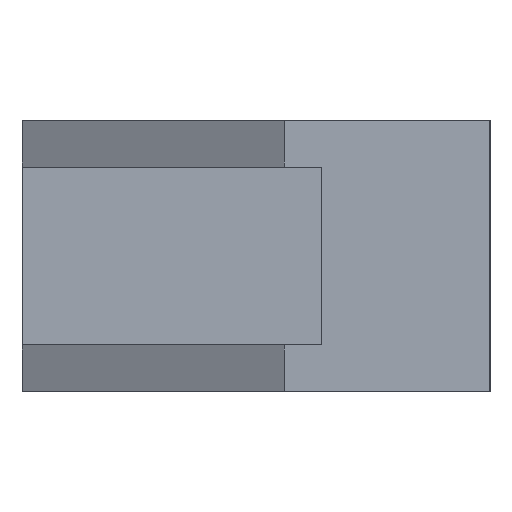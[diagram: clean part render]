
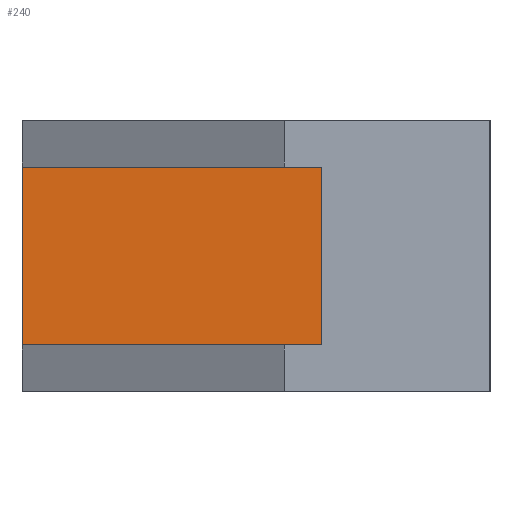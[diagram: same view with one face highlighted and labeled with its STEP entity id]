
A CAD part, left-side view. The second image highlights one B-rep face of the part: STEP entity #240.
In plain terms, the highlighted planar face has unit normal (-1, 0, 0).
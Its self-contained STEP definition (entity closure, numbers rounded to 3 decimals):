
#8 = CARTESIAN_POINT ( 'NONE',  ( -82.5, 25., 9.5 ) ) ;
#40 = CARTESIAN_POINT ( 'NONE',  ( -82.5, -7., -9.5 ) ) ;
#43 = EDGE_LOOP ( 'NONE', ( #635, #510, #849, #672 ) ) ;
#62 = DIRECTION ( 'NONE',  ( 1., 0., 0. ) ) ;
#82 = VERTEX_POINT ( 'NONE', #757 ) ;
#120 = LINE ( 'NONE', #40, #519 ) ;
#146 = CARTESIAN_POINT ( 'NONE',  ( -82.5, -7., -9.5 ) ) ;
#224 = VERTEX_POINT ( 'NONE', #267 ) ;
#240 = ADVANCED_FACE ( 'NONE', ( #398 ), #529, .F. ) ;
#241 = VECTOR ( 'NONE', #597, 1000. ) ;
#255 = EDGE_CURVE ( 'NONE', #82, #481, #789, .T. ) ;
#267 = CARTESIAN_POINT ( 'NONE',  ( -82.5, -7., -9.5 ) ) ;
#300 = AXIS2_PLACEMENT_3D ( 'NONE', #146, #62, #890 ) ;
#310 = VERTEX_POINT ( 'NONE', #462 ) ;
#327 = DIRECTION ( 'NONE',  ( 0., 1., 0. ) ) ;
#344 = VECTOR ( 'NONE', #327, 1000. ) ;
#398 = FACE_OUTER_BOUND ( 'NONE', #43, .T. ) ;
#421 = CARTESIAN_POINT ( 'NONE',  ( -82.5, -7., -9.5 ) ) ;
#430 = EDGE_CURVE ( 'NONE', #481, #310, #647, .T. ) ;
#462 = CARTESIAN_POINT ( 'NONE',  ( -82.5, 25., -9.5 ) ) ;
#469 = DIRECTION ( 'NONE',  ( 0., 0., -1. ) ) ;
#481 = VERTEX_POINT ( 'NONE', #8 ) ;
#510 = ORIENTED_EDGE ( 'NONE', *, *, #805, .F. ) ;
#519 = VECTOR ( 'NONE', #858, 1000. ) ;
#520 = LINE ( 'NONE', #421, #344 ) ;
#529 = PLANE ( 'NONE',  #300 ) ;
#557 = CARTESIAN_POINT ( 'NONE',  ( -82.5, 25., -9.5 ) ) ;
#562 = EDGE_CURVE ( 'NONE', #82, #224, #120, .T. ) ;
#597 = DIRECTION ( 'NONE',  ( 0., 1., 0. ) ) ;
#635 = ORIENTED_EDGE ( 'NONE', *, *, #430, .T. ) ;
#647 = LINE ( 'NONE', #557, #769 ) ;
#672 = ORIENTED_EDGE ( 'NONE', *, *, #255, .T. ) ;
#692 = CARTESIAN_POINT ( 'NONE',  ( -82.5, -7., 9.5 ) ) ;
#757 = CARTESIAN_POINT ( 'NONE',  ( -82.5, -7., 9.5 ) ) ;
#769 = VECTOR ( 'NONE', #469, 1000. ) ;
#789 = LINE ( 'NONE', #692, #241 ) ;
#805 = EDGE_CURVE ( 'NONE', #224, #310, #520, .T. ) ;
#849 = ORIENTED_EDGE ( 'NONE', *, *, #562, .F. ) ;
#858 = DIRECTION ( 'NONE',  ( 0., 0., -1. ) ) ;
#890 = DIRECTION ( 'NONE',  ( 0., 1., 0. ) ) ;
